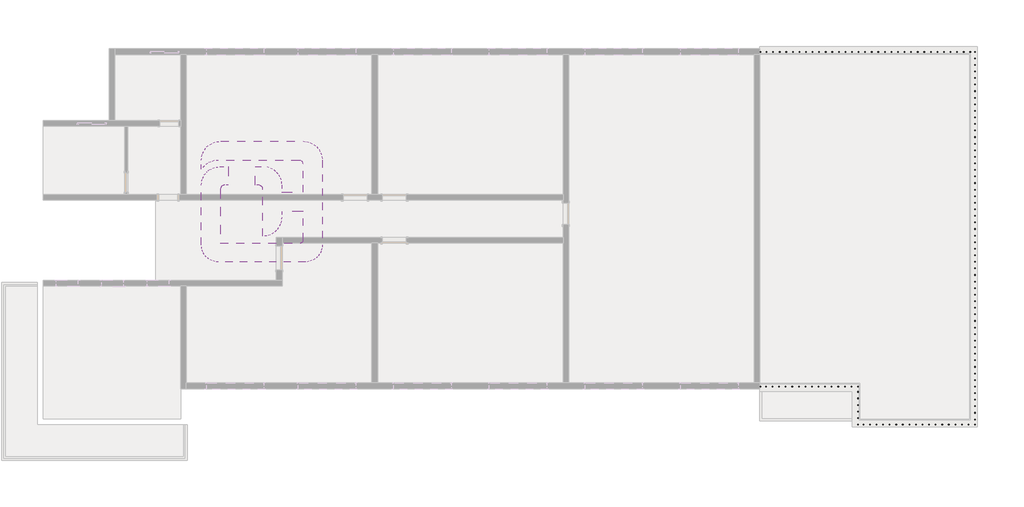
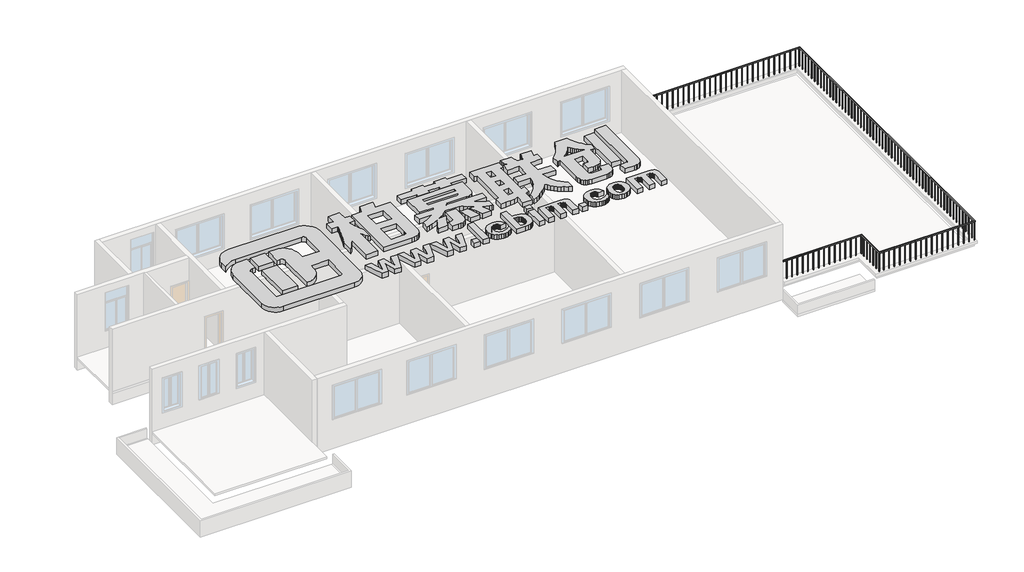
# One storey, part 2 of 2: 1 proxy, 1 railing.
"""IFC4 building model written with IfcOpenShell, lengths in millimetres."""

from ifc_helpers import new_model, si_unit, frame, origin, place, context, project, spatial, polyline, outline, extrude, faceted_brep, transform, mapped, element, save
from components import generic_models_1ff84f2f

model = new_model("IFC4")

# Units and contexts
model_context = context("Model", 3, world=origin())
ifc_project = project(units=[si_unit("LENGTHUNIT", "METRE", prefix="MILLI")], contexts=[model_context])

# Site, building, storey
site = spatial("IfcSite", under=ifc_project)
building = spatial("IfcBuilding", under=site)
storey = spatial("IfcBuildingStorey", under=building, Name="标高 2", Elevation=3300.0)

# Proxy
placement = place(None, origin())
generic_models_shape = generic_models_1ff84f2f(model_context)
element("IfcBuildingElementProxy", 1, Name="柏慕联创LOGO横向 : 柏慕联创LOGO横向", ObjectType="柏慕联创LOGO横向 : 柏慕联创LOGO横向", at=placement, inside=storey, context=model_context, shape_type="MappedRepresentation", body=[
    mapped(generic_models_shape, transform((5525.1052473, -2648.768361, 7400.0), x_axis=(1.0, 0.0, 0.0), y_axis=(0.0, 1.0, 0.0), z_axis=(0.0, 0.0, 1.0))),
])

# Railing
element("IfcRailing", 2, ObjectType="1050", at=placement, inside=storey, context=model_context, shape_type="SolidModel", body=[
    faceted_brep([(26565.1052473, 5396.231639, 5350.0), (26565.1052473, 5396.231639, 5300.0), (26565.1052473, 5346.231639, 5300.0), (26565.1052473, 5346.231639, 5350.0), (35590.1052473, 5396.231639, 5350.0), (35590.1052473, 5396.231639, 5300.0), (35540.1052473, 5346.231639, 5300.0), (35540.1052473, 5346.231639, 5350.0), (35590.1052473, -10273.768361, 5350.0), (35590.1052473, -10273.768361, 5300.0), (35540.1052473, -10223.768361, 5300.0), (35540.1052473, -10223.768361, 5350.0), (30640.1052473, -10273.768361, 5350.0), (30640.1052473, -10273.768361, 5300.0), (30690.1052473, -10223.768361, 5300.0), (30690.1052473, -10223.768361, 5350.0), (30640.1052473, -8673.768361, 5350.0), (30640.1052473, -8673.768361, 5300.0), (30690.1052473, -8623.768361, 5300.0), (30690.1052473, -8623.768361, 5350.0), (26565.1052473, -8673.768361, 5350.0), (26565.1052473, -8623.768361, 5350.0), (26565.1052473, -8623.768361, 5300.0), (26565.1052473, -8673.768361, 5300.0)], [[[0, 1, 2, 3]], [[1, 0, 4, 5]], [[2, 1, 5, 6]], [[3, 2, 6, 7]], [[0, 3, 7, 4]], [[5, 4, 8, 9]], [[6, 5, 9, 10]], [[7, 6, 10, 11]], [[4, 7, 11, 8]], [[9, 8, 12, 13]], [[10, 9, 13, 14]], [[11, 10, 14, 15]], [[8, 11, 15, 12]], [[13, 12, 16, 17]], [[14, 13, 17, 18]], [[15, 14, 18, 19]], [[12, 15, 19, 16]], [[20, 21, 22, 23]], [[17, 16, 20, 23]], [[18, 17, 23, 22]], [[19, 18, 22, 21]], [[16, 19, 21, 20]]]),
    extrude(outline(polyline([(26827.6052473, -8636.268361), (26827.6052473, -8661.268361), (26802.6052473, -8661.268361), (26802.6052473, -8636.268361), (26827.6052473, -8636.268361)])), frame((0.0, 0.0, 4300.0), z_axis=(0.0, 0.0, 1.0), x_axis=(1.0, 0.0, 0.0)), (0.0, 0.0, 1.0), 1000.0),
    extrude(outline(polyline([(27102.6052473, -8636.268361), (27102.6052473, -8661.268361), (27077.6052473, -8661.268361), (27077.6052473, -8636.268361), (27102.6052473, -8636.268361)])), frame((0.0, 0.0, 4300.0), z_axis=(0.0, 0.0, 1.0), x_axis=(1.0, 0.0, 0.0)), (0.0, 0.0, 1.0), 1000.0),
    extrude(outline(polyline([(27377.6052473, -8636.268361), (27377.6052473, -8661.268361), (27352.6052473, -8661.268361), (27352.6052473, -8636.268361), (27377.6052473, -8636.268361)])), frame((0.0, 0.0, 4300.0), z_axis=(0.0, 0.0, 1.0), x_axis=(1.0, 0.0, 0.0)), (0.0, 0.0, 1.0), 1000.0),
    extrude(outline(polyline([(27652.6052473, -8636.268361), (27652.6052473, -8661.268361), (27627.6052473, -8661.268361), (27627.6052473, -8636.268361), (27652.6052473, -8636.268361)])), frame((0.0, 0.0, 4300.0), z_axis=(0.0, 0.0, 1.0), x_axis=(1.0, 0.0, 0.0)), (0.0, 0.0, 1.0), 1000.0),
    extrude(outline(polyline([(27927.6052473, -8636.268361), (27927.6052473, -8661.268361), (27902.6052473, -8661.268361), (27902.6052473, -8636.268361), (27927.6052473, -8636.268361)])), frame((0.0, 0.0, 4300.0), z_axis=(0.0, 0.0, 1.0), x_axis=(1.0, 0.0, 0.0)), (0.0, 0.0, 1.0), 1000.0),
    extrude(outline(polyline([(28202.6052473, -8636.268361), (28202.6052473, -8661.268361), (28177.6052473, -8661.268361), (28177.6052473, -8636.268361), (28202.6052473, -8636.268361)])), frame((0.0, 0.0, 4300.0), z_axis=(0.0, 0.0, 1.0), x_axis=(1.0, 0.0, 0.0)), (0.0, 0.0, 1.0), 1000.0),
    extrude(outline(polyline([(28477.6052473, -8636.268361), (28477.6052473, -8661.268361), (28452.6052473, -8661.268361), (28452.6052473, -8636.268361), (28477.6052473, -8636.268361)])), frame((0.0, 0.0, 4300.0), z_axis=(0.0, 0.0, 1.0), x_axis=(1.0, 0.0, 0.0)), (0.0, 0.0, 1.0), 1000.0),
    extrude(outline(polyline([(28752.6052473, -8636.268361), (28752.6052473, -8661.268361), (28727.6052473, -8661.268361), (28727.6052473, -8636.268361), (28752.6052473, -8636.268361)])), frame((0.0, 0.0, 4300.0), z_axis=(0.0, 0.0, 1.0), x_axis=(1.0, 0.0, 0.0)), (0.0, 0.0, 1.0), 1000.0),
    extrude(outline(polyline([(29027.6052473, -8636.268361), (29027.6052473, -8661.268361), (29002.6052473, -8661.268361), (29002.6052473, -8636.268361), (29027.6052473, -8636.268361)])), frame((0.0, 0.0, 4300.0), z_axis=(0.0, 0.0, 1.0), x_axis=(1.0, 0.0, 0.0)), (0.0, 0.0, 1.0), 1000.0),
    extrude(outline(polyline([(29302.6052473, -8636.268361), (29302.6052473, -8661.268361), (29277.6052473, -8661.268361), (29277.6052473, -8636.268361), (29302.6052473, -8636.268361)])), frame((0.0, 0.0, 4300.0), z_axis=(0.0, 0.0, 1.0), x_axis=(1.0, 0.0, 0.0)), (0.0, 0.0, 1.0), 1000.0),
    extrude(outline(polyline([(29577.6052473, -8636.268361), (29577.6052473, -8661.268361), (29552.6052473, -8661.268361), (29552.6052473, -8636.268361), (29577.6052473, -8636.268361)])), frame((0.0, 0.0, 4300.0), z_axis=(0.0, 0.0, 1.0), x_axis=(1.0, 0.0, 0.0)), (0.0, 0.0, 1.0), 1000.0),
    extrude(outline(polyline([(29852.6052473, -8636.268361), (29852.6052473, -8661.268361), (29827.6052473, -8661.268361), (29827.6052473, -8636.268361), (29852.6052473, -8636.268361)])), frame((0.0, 0.0, 4300.0), z_axis=(0.0, 0.0, 1.0), x_axis=(1.0, 0.0, 0.0)), (0.0, 0.0, 1.0), 1000.0),
    extrude(outline(polyline([(30127.6052473, -8636.268361), (30127.6052473, -8661.268361), (30102.6052473, -8661.268361), (30102.6052473, -8636.268361), (30127.6052473, -8636.268361)])), frame((0.0, 0.0, 4300.0), z_axis=(0.0, 0.0, 1.0), x_axis=(1.0, 0.0, 0.0)), (0.0, 0.0, 1.0), 1000.0),
    extrude(outline(polyline([(30402.6052473, -8636.268361), (30402.6052473, -8661.268361), (30377.6052473, -8661.268361), (30377.6052473, -8636.268361), (30402.6052473, -8636.268361)])), frame((0.0, 0.0, 4300.0), z_axis=(0.0, 0.0, 1.0), x_axis=(1.0, 0.0, 0.0)), (0.0, 0.0, 1.0), 1000.0),
    extrude(outline(polyline([(30677.6052473, -8886.268361), (30652.6052473, -8886.268361), (30652.6052473, -8861.268361), (30677.6052473, -8861.268361), (30677.6052473, -8886.268361)])), frame((0.0, 0.0, 4300.0), z_axis=(0.0, 0.0, 1.0), x_axis=(1.0, 0.0, 0.0)), (0.0, 0.0, 1.0), 1000.0),
    extrude(outline(polyline([(30677.6052473, -9161.268361), (30652.6052473, -9161.268361), (30652.6052473, -9136.268361), (30677.6052473, -9136.268361), (30677.6052473, -9161.268361)])), frame((0.0, 0.0, 4300.0), z_axis=(0.0, 0.0, 1.0), x_axis=(1.0, 0.0, 0.0)), (0.0, 0.0, 1.0), 1000.0),
    extrude(outline(polyline([(30677.6052473, -9436.268361), (30652.6052473, -9436.268361), (30652.6052473, -9411.268361), (30677.6052473, -9411.268361), (30677.6052473, -9436.268361)])), frame((0.0, 0.0, 4300.0), z_axis=(0.0, 0.0, 1.0), x_axis=(1.0, 0.0, 0.0)), (0.0, 0.0, 1.0), 1000.0),
    extrude(outline(polyline([(30677.6052473, -9711.268361), (30652.6052473, -9711.268361), (30652.6052473, -9686.268361), (30677.6052473, -9686.268361), (30677.6052473, -9711.268361)])), frame((0.0, 0.0, 4300.0), z_axis=(0.0, 0.0, 1.0), x_axis=(1.0, 0.0, 0.0)), (0.0, 0.0, 1.0), 1000.0),
    extrude(outline(polyline([(30677.6052473, -9986.268361), (30652.6052473, -9986.268361), (30652.6052473, -9961.268361), (30677.6052473, -9961.268361), (30677.6052473, -9986.268361)])), frame((0.0, 0.0, 4300.0), z_axis=(0.0, 0.0, 1.0), x_axis=(1.0, 0.0, 0.0)), (0.0, 0.0, 1.0), 1000.0),
    extrude(outline(polyline([(30902.6052473, -10236.268361), (30902.6052473, -10261.268361), (30877.6052473, -10261.268361), (30877.6052473, -10236.268361), (30902.6052473, -10236.268361)])), frame((0.0, 0.0, 4300.0), z_axis=(0.0, 0.0, 1.0), x_axis=(1.0, 0.0, 0.0)), (0.0, 0.0, 1.0), 1000.0),
    extrude(outline(polyline([(31177.6052473, -10236.268361), (31177.6052473, -10261.268361), (31152.6052473, -10261.268361), (31152.6052473, -10236.268361), (31177.6052473, -10236.268361)])), frame((0.0, 0.0, 4300.0), z_axis=(0.0, 0.0, 1.0), x_axis=(1.0, 0.0, 0.0)), (0.0, 0.0, 1.0), 1000.0),
    extrude(outline(polyline([(31452.6052473, -10236.268361), (31452.6052473, -10261.268361), (31427.6052473, -10261.268361), (31427.6052473, -10236.268361), (31452.6052473, -10236.268361)])), frame((0.0, 0.0, 4300.0), z_axis=(0.0, 0.0, 1.0), x_axis=(1.0, 0.0, 0.0)), (0.0, 0.0, 1.0), 1000.0),
    extrude(outline(polyline([(31727.6052473, -10236.268361), (31727.6052473, -10261.268361), (31702.6052473, -10261.268361), (31702.6052473, -10236.268361), (31727.6052473, -10236.268361)])), frame((0.0, 0.0, 4300.0), z_axis=(0.0, 0.0, 1.0), x_axis=(1.0, 0.0, 0.0)), (0.0, 0.0, 1.0), 1000.0),
    extrude(outline(polyline([(32002.6052473, -10236.268361), (32002.6052473, -10261.268361), (31977.6052473, -10261.268361), (31977.6052473, -10236.268361), (32002.6052473, -10236.268361)])), frame((0.0, 0.0, 4300.0), z_axis=(0.0, 0.0, 1.0), x_axis=(1.0, 0.0, 0.0)), (0.0, 0.0, 1.0), 1000.0),
    extrude(outline(polyline([(32277.6052473, -10236.268361), (32277.6052473, -10261.268361), (32252.6052473, -10261.268361), (32252.6052473, -10236.268361), (32277.6052473, -10236.268361)])), frame((0.0, 0.0, 4300.0), z_axis=(0.0, 0.0, 1.0), x_axis=(1.0, 0.0, 0.0)), (0.0, 0.0, 1.0), 1000.0),
    extrude(outline(polyline([(32552.6052473, -10236.268361), (32552.6052473, -10261.268361), (32527.6052473, -10261.268361), (32527.6052473, -10236.268361), (32552.6052473, -10236.268361)])), frame((0.0, 0.0, 4300.0), z_axis=(0.0, 0.0, 1.0), x_axis=(1.0, 0.0, 0.0)), (0.0, 0.0, 1.0), 1000.0),
    extrude(outline(polyline([(32827.6052473, -10236.268361), (32827.6052473, -10261.268361), (32802.6052473, -10261.268361), (32802.6052473, -10236.268361), (32827.6052473, -10236.268361)])), frame((0.0, 0.0, 4300.0), z_axis=(0.0, 0.0, 1.0), x_axis=(1.0, 0.0, 0.0)), (0.0, 0.0, 1.0), 1000.0),
    extrude(outline(polyline([(33102.6052473, -10236.268361), (33102.6052473, -10261.268361), (33077.6052473, -10261.268361), (33077.6052473, -10236.268361), (33102.6052473, -10236.268361)])), frame((0.0, 0.0, 4300.0), z_axis=(0.0, 0.0, 1.0), x_axis=(1.0, 0.0, 0.0)), (0.0, 0.0, 1.0), 1000.0),
    extrude(outline(polyline([(33377.6052473, -10236.268361), (33377.6052473, -10261.268361), (33352.6052473, -10261.268361), (33352.6052473, -10236.268361), (33377.6052473, -10236.268361)])), frame((0.0, 0.0, 4300.0), z_axis=(0.0, 0.0, 1.0), x_axis=(1.0, 0.0, 0.0)), (0.0, 0.0, 1.0), 1000.0),
    extrude(outline(polyline([(33652.6052473, -10236.268361), (33652.6052473, -10261.268361), (33627.6052473, -10261.268361), (33627.6052473, -10236.268361), (33652.6052473, -10236.268361)])), frame((0.0, 0.0, 4300.0), z_axis=(0.0, 0.0, 1.0), x_axis=(1.0, 0.0, 0.0)), (0.0, 0.0, 1.0), 1000.0),
    extrude(outline(polyline([(33927.6052473, -10236.268361), (33927.6052473, -10261.268361), (33902.6052473, -10261.268361), (33902.6052473, -10236.268361), (33927.6052473, -10236.268361)])), frame((0.0, 0.0, 4300.0), z_axis=(0.0, 0.0, 1.0), x_axis=(1.0, 0.0, 0.0)), (0.0, 0.0, 1.0), 1000.0),
    extrude(outline(polyline([(34202.6052473, -10236.268361), (34202.6052473, -10261.268361), (34177.6052473, -10261.268361), (34177.6052473, -10236.268361), (34202.6052473, -10236.268361)])), frame((0.0, 0.0, 4300.0), z_axis=(0.0, 0.0, 1.0), x_axis=(1.0, 0.0, 0.0)), (0.0, 0.0, 1.0), 1000.0),
    extrude(outline(polyline([(34477.6052473, -10236.268361), (34477.6052473, -10261.268361), (34452.6052473, -10261.268361), (34452.6052473, -10236.268361), (34477.6052473, -10236.268361)])), frame((0.0, 0.0, 4300.0), z_axis=(0.0, 0.0, 1.0), x_axis=(1.0, 0.0, 0.0)), (0.0, 0.0, 1.0), 1000.0),
    extrude(outline(polyline([(34752.6052473, -10236.268361), (34752.6052473, -10261.268361), (34727.6052473, -10261.268361), (34727.6052473, -10236.268361), (34752.6052473, -10236.268361)])), frame((0.0, 0.0, 4300.0), z_axis=(0.0, 0.0, 1.0), x_axis=(1.0, 0.0, 0.0)), (0.0, 0.0, 1.0), 1000.0),
    extrude(outline(polyline([(35027.6052473, -10236.268361), (35027.6052473, -10261.268361), (35002.6052473, -10261.268361), (35002.6052473, -10236.268361), (35027.6052473, -10236.268361)])), frame((0.0, 0.0, 4300.0), z_axis=(0.0, 0.0, 1.0), x_axis=(1.0, 0.0, 0.0)), (0.0, 0.0, 1.0), 1000.0),
    extrude(outline(polyline([(35302.6052473, -10236.268361), (35302.6052473, -10261.268361), (35277.6052473, -10261.268361), (35277.6052473, -10236.268361), (35302.6052473, -10236.268361)])), frame((0.0, 0.0, 4300.0), z_axis=(0.0, 0.0, 1.0), x_axis=(1.0, 0.0, 0.0)), (0.0, 0.0, 1.0), 1000.0),
    extrude(outline(polyline([(35552.6052473, -10016.268361), (35577.6052473, -10016.268361), (35577.6052473, -10041.268361), (35552.6052473, -10041.268361), (35552.6052473, -10016.268361)])), frame((0.0, 0.0, 4300.0), z_axis=(0.0, 0.0, 1.0), x_axis=(1.0, 0.0, 0.0)), (0.0, 0.0, 1.0), 1000.0),
    extrude(outline(polyline([(35552.6052473, -9741.268361), (35577.6052473, -9741.268361), (35577.6052473, -9766.268361), (35552.6052473, -9766.268361), (35552.6052473, -9741.268361)])), frame((0.0, 0.0, 4300.0), z_axis=(0.0, 0.0, 1.0), x_axis=(1.0, 0.0, 0.0)), (0.0, 0.0, 1.0), 1000.0),
    extrude(outline(polyline([(35552.6052473, -9466.268361), (35577.6052473, -9466.268361), (35577.6052473, -9491.268361), (35552.6052473, -9491.268361), (35552.6052473, -9466.268361)])), frame((0.0, 0.0, 4300.0), z_axis=(0.0, 0.0, 1.0), x_axis=(1.0, 0.0, 0.0)), (0.0, 0.0, 1.0), 1000.0),
    extrude(outline(polyline([(35552.6052473, -9191.268361), (35577.6052473, -9191.268361), (35577.6052473, -9216.268361), (35552.6052473, -9216.268361), (35552.6052473, -9191.268361)])), frame((0.0, 0.0, 4300.0), z_axis=(0.0, 0.0, 1.0), x_axis=(1.0, 0.0, 0.0)), (0.0, 0.0, 1.0), 1000.0),
    extrude(outline(polyline([(35552.6052473, -8916.268361), (35577.6052473, -8916.268361), (35577.6052473, -8941.268361), (35552.6052473, -8941.268361), (35552.6052473, -8916.268361)])), frame((0.0, 0.0, 4300.0), z_axis=(0.0, 0.0, 1.0), x_axis=(1.0, 0.0, 0.0)), (0.0, 0.0, 1.0), 1000.0),
    extrude(outline(polyline([(35552.6052473, -8641.268361), (35577.6052473, -8641.268361), (35577.6052473, -8666.268361), (35552.6052473, -8666.268361), (35552.6052473, -8641.268361)])), frame((0.0, 0.0, 4300.0), z_axis=(0.0, 0.0, 1.0), x_axis=(1.0, 0.0, 0.0)), (0.0, 0.0, 1.0), 1000.0),
    extrude(outline(polyline([(35552.6052473, -8366.268361), (35577.6052473, -8366.268361), (35577.6052473, -8391.268361), (35552.6052473, -8391.268361), (35552.6052473, -8366.268361)])), frame((0.0, 0.0, 4300.0), z_axis=(0.0, 0.0, 1.0), x_axis=(1.0, 0.0, 0.0)), (0.0, 0.0, 1.0), 1000.0),
    extrude(outline(polyline([(35552.6052473, -8091.268361), (35577.6052473, -8091.268361), (35577.6052473, -8116.268361), (35552.6052473, -8116.268361), (35552.6052473, -8091.268361)])), frame((0.0, 0.0, 4300.0), z_axis=(0.0, 0.0, 1.0), x_axis=(1.0, 0.0, 0.0)), (0.0, 0.0, 1.0), 1000.0),
    extrude(outline(polyline([(35552.6052473, -7816.268361), (35577.6052473, -7816.268361), (35577.6052473, -7841.268361), (35552.6052473, -7841.268361), (35552.6052473, -7816.268361)])), frame((0.0, 0.0, 4300.0), z_axis=(0.0, 0.0, 1.0), x_axis=(1.0, 0.0, 0.0)), (0.0, 0.0, 1.0), 1000.0),
    extrude(outline(polyline([(35552.6052473, -7541.268361), (35577.6052473, -7541.268361), (35577.6052473, -7566.268361), (35552.6052473, -7566.268361), (35552.6052473, -7541.268361)])), frame((0.0, 0.0, 4300.0), z_axis=(0.0, 0.0, 1.0), x_axis=(1.0, 0.0, 0.0)), (0.0, 0.0, 1.0), 1000.0),
    extrude(outline(polyline([(35552.6052473, -7266.268361), (35577.6052473, -7266.268361), (35577.6052473, -7291.268361), (35552.6052473, -7291.268361), (35552.6052473, -7266.268361)])), frame((0.0, 0.0, 4300.0), z_axis=(0.0, 0.0, 1.0), x_axis=(1.0, 0.0, 0.0)), (0.0, 0.0, 1.0), 1000.0),
    extrude(outline(polyline([(35552.6052473, -6991.268361), (35577.6052473, -6991.268361), (35577.6052473, -7016.268361), (35552.6052473, -7016.268361), (35552.6052473, -6991.268361)])), frame((0.0, 0.0, 4300.0), z_axis=(0.0, 0.0, 1.0), x_axis=(1.0, 0.0, 0.0)), (0.0, 0.0, 1.0), 1000.0),
    extrude(outline(polyline([(35552.6052473, -6716.268361), (35577.6052473, -6716.268361), (35577.6052473, -6741.268361), (35552.6052473, -6741.268361), (35552.6052473, -6716.268361)])), frame((0.0, 0.0, 4300.0), z_axis=(0.0, 0.0, 1.0), x_axis=(1.0, 0.0, 0.0)), (0.0, 0.0, 1.0), 1000.0),
    extrude(outline(polyline([(35552.6052473, -6441.268361), (35577.6052473, -6441.268361), (35577.6052473, -6466.268361), (35552.6052473, -6466.268361), (35552.6052473, -6441.268361)])), frame((0.0, 0.0, 4300.0), z_axis=(0.0, 0.0, 1.0), x_axis=(1.0, 0.0, 0.0)), (0.0, 0.0, 1.0), 1000.0),
    extrude(outline(polyline([(35552.6052473, -6166.268361), (35577.6052473, -6166.268361), (35577.6052473, -6191.268361), (35552.6052473, -6191.268361), (35552.6052473, -6166.268361)])), frame((0.0, 0.0, 4300.0), z_axis=(0.0, 0.0, 1.0), x_axis=(1.0, 0.0, 0.0)), (0.0, 0.0, 1.0), 1000.0),
    extrude(outline(polyline([(35552.6052473, -5891.268361), (35577.6052473, -5891.268361), (35577.6052473, -5916.268361), (35552.6052473, -5916.268361), (35552.6052473, -5891.268361)])), frame((0.0, 0.0, 4300.0), z_axis=(0.0, 0.0, 1.0), x_axis=(1.0, 0.0, 0.0)), (0.0, 0.0, 1.0), 1000.0),
    extrude(outline(polyline([(35552.6052473, -5616.268361), (35577.6052473, -5616.268361), (35577.6052473, -5641.268361), (35552.6052473, -5641.268361), (35552.6052473, -5616.268361)])), frame((0.0, 0.0, 4300.0), z_axis=(0.0, 0.0, 1.0), x_axis=(1.0, 0.0, 0.0)), (0.0, 0.0, 1.0), 1000.0),
    extrude(outline(polyline([(35552.6052473, -5341.268361), (35577.6052473, -5341.268361), (35577.6052473, -5366.268361), (35552.6052473, -5366.268361), (35552.6052473, -5341.268361)])), frame((0.0, 0.0, 4300.0), z_axis=(0.0, 0.0, 1.0), x_axis=(1.0, 0.0, 0.0)), (0.0, 0.0, 1.0), 1000.0),
    extrude(outline(polyline([(35552.6052473, -5066.268361), (35577.6052473, -5066.268361), (35577.6052473, -5091.268361), (35552.6052473, -5091.268361), (35552.6052473, -5066.268361)])), frame((0.0, 0.0, 4300.0), z_axis=(0.0, 0.0, 1.0), x_axis=(1.0, 0.0, 0.0)), (0.0, 0.0, 1.0), 1000.0),
    extrude(outline(polyline([(35552.6052473, -4791.268361), (35577.6052473, -4791.268361), (35577.6052473, -4816.268361), (35552.6052473, -4816.268361), (35552.6052473, -4791.268361)])), frame((0.0, 0.0, 4300.0), z_axis=(0.0, 0.0, 1.0), x_axis=(1.0, 0.0, 0.0)), (0.0, 0.0, 1.0), 1000.0),
    extrude(outline(polyline([(35552.6052473, -4516.268361), (35577.6052473, -4516.268361), (35577.6052473, -4541.268361), (35552.6052473, -4541.268361), (35552.6052473, -4516.268361)])), frame((0.0, 0.0, 4300.0), z_axis=(0.0, 0.0, 1.0), x_axis=(1.0, 0.0, 0.0)), (0.0, 0.0, 1.0), 1000.0),
    extrude(outline(polyline([(35552.6052473, -4241.268361), (35577.6052473, -4241.268361), (35577.6052473, -4266.268361), (35552.6052473, -4266.268361), (35552.6052473, -4241.268361)])), frame((0.0, 0.0, 4300.0), z_axis=(0.0, 0.0, 1.0), x_axis=(1.0, 0.0, 0.0)), (0.0, 0.0, 1.0), 1000.0),
    extrude(outline(polyline([(35552.6052473, -3966.268361), (35577.6052473, -3966.268361), (35577.6052473, -3991.268361), (35552.6052473, -3991.268361), (35552.6052473, -3966.268361)])), frame((0.0, 0.0, 4300.0), z_axis=(0.0, 0.0, 1.0), x_axis=(1.0, 0.0, 0.0)), (0.0, 0.0, 1.0), 1000.0),
    extrude(outline(polyline([(35552.6052473, -3691.268361), (35577.6052473, -3691.268361), (35577.6052473, -3716.268361), (35552.6052473, -3716.268361), (35552.6052473, -3691.268361)])), frame((0.0, 0.0, 4300.0), z_axis=(0.0, 0.0, 1.0), x_axis=(1.0, 0.0, 0.0)), (0.0, 0.0, 1.0), 1000.0),
    extrude(outline(polyline([(35552.6052473, -3416.268361), (35577.6052473, -3416.268361), (35577.6052473, -3441.268361), (35552.6052473, -3441.268361), (35552.6052473, -3416.268361)])), frame((0.0, 0.0, 4300.0), z_axis=(0.0, 0.0, 1.0), x_axis=(1.0, 0.0, 0.0)), (0.0, 0.0, 1.0), 1000.0),
    extrude(outline(polyline([(35552.6052473, -3141.268361), (35577.6052473, -3141.268361), (35577.6052473, -3166.268361), (35552.6052473, -3166.268361), (35552.6052473, -3141.268361)])), frame((0.0, 0.0, 4300.0), z_axis=(0.0, 0.0, 1.0), x_axis=(1.0, 0.0, 0.0)), (0.0, 0.0, 1.0), 1000.0),
    extrude(outline(polyline([(35552.6052473, -2866.268361), (35577.6052473, -2866.268361), (35577.6052473, -2891.268361), (35552.6052473, -2891.268361), (35552.6052473, -2866.268361)])), frame((0.0, 0.0, 4300.0), z_axis=(0.0, 0.0, 1.0), x_axis=(1.0, 0.0, 0.0)), (0.0, 0.0, 1.0), 1000.0),
    extrude(outline(polyline([(35552.6052473, -2591.268361), (35577.6052473, -2591.268361), (35577.6052473, -2616.268361), (35552.6052473, -2616.268361), (35552.6052473, -2591.268361)])), frame((0.0, 0.0, 4300.0), z_axis=(0.0, 0.0, 1.0), x_axis=(1.0, 0.0, 0.0)), (0.0, 0.0, 1.0), 1000.0),
    extrude(outline(polyline([(35552.6052473, -2316.268361), (35577.6052473, -2316.268361), (35577.6052473, -2341.268361), (35552.6052473, -2341.268361), (35552.6052473, -2316.268361)])), frame((0.0, 0.0, 4300.0), z_axis=(0.0, 0.0, 1.0), x_axis=(1.0, 0.0, 0.0)), (0.0, 0.0, 1.0), 1000.0),
    extrude(outline(polyline([(35552.6052473, -2041.268361), (35577.6052473, -2041.268361), (35577.6052473, -2066.268361), (35552.6052473, -2066.268361), (35552.6052473, -2041.268361)])), frame((0.0, 0.0, 4300.0), z_axis=(0.0, 0.0, 1.0), x_axis=(1.0, 0.0, 0.0)), (0.0, 0.0, 1.0), 1000.0),
    extrude(outline(polyline([(35552.6052473, -1766.268361), (35577.6052473, -1766.268361), (35577.6052473, -1791.268361), (35552.6052473, -1791.268361), (35552.6052473, -1766.268361)])), frame((0.0, 0.0, 4300.0), z_axis=(0.0, 0.0, 1.0), x_axis=(1.0, 0.0, 0.0)), (0.0, 0.0, 1.0), 1000.0),
    extrude(outline(polyline([(35552.6052473, -1491.268361), (35577.6052473, -1491.268361), (35577.6052473, -1516.268361), (35552.6052473, -1516.268361), (35552.6052473, -1491.268361)])), frame((0.0, 0.0, 4300.0), z_axis=(0.0, 0.0, 1.0), x_axis=(1.0, 0.0, 0.0)), (0.0, 0.0, 1.0), 1000.0),
    extrude(outline(polyline([(35552.6052473, -1216.268361), (35577.6052473, -1216.268361), (35577.6052473, -1241.268361), (35552.6052473, -1241.268361), (35552.6052473, -1216.268361)])), frame((0.0, 0.0, 4300.0), z_axis=(0.0, 0.0, 1.0), x_axis=(1.0, 0.0, 0.0)), (0.0, 0.0, 1.0), 1000.0),
    extrude(outline(polyline([(35552.6052473, -941.268361), (35577.6052473, -941.268361), (35577.6052473, -966.268361), (35552.6052473, -966.268361), (35552.6052473, -941.268361)])), frame((0.0, 0.0, 4300.0), z_axis=(0.0, 0.0, 1.0), x_axis=(1.0, 0.0, 0.0)), (0.0, 0.0, 1.0), 1000.0),
    extrude(outline(polyline([(35552.6052473, -666.268361), (35577.6052473, -666.268361), (35577.6052473, -691.268361), (35552.6052473, -691.268361), (35552.6052473, -666.268361)])), frame((0.0, 0.0, 4300.0), z_axis=(0.0, 0.0, 1.0), x_axis=(1.0, 0.0, 0.0)), (0.0, 0.0, 1.0), 1000.0),
    extrude(outline(polyline([(35552.6052473, -391.268361), (35577.6052473, -391.268361), (35577.6052473, -416.268361), (35552.6052473, -416.268361), (35552.6052473, -391.268361)])), frame((0.0, 0.0, 4300.0), z_axis=(0.0, 0.0, 1.0), x_axis=(1.0, 0.0, 0.0)), (0.0, 0.0, 1.0), 1000.0),
    extrude(outline(polyline([(35552.6052473, -116.268361), (35577.6052473, -116.268361), (35577.6052473, -141.268361), (35552.6052473, -141.268361), (35552.6052473, -116.268361)])), frame((0.0, 0.0, 4300.0), z_axis=(0.0, 0.0, 1.0), x_axis=(1.0, 0.0, 0.0)), (0.0, 0.0, 1.0), 1000.0),
    extrude(outline(polyline([(35552.6052473, 158.731639), (35577.6052473, 158.731639), (35577.6052473, 133.731639), (35552.6052473, 133.731639), (35552.6052473, 158.731639)])), frame((0.0, 0.0, 4300.0), z_axis=(0.0, 0.0, 1.0), x_axis=(1.0, 0.0, 0.0)), (0.0, 0.0, 1.0), 1000.0),
    extrude(outline(polyline([(35552.6052473, 433.731639), (35577.6052473, 433.731639), (35577.6052473, 408.731639), (35552.6052473, 408.731639), (35552.6052473, 433.731639)])), frame((0.0, 0.0, 4300.0), z_axis=(0.0, 0.0, 1.0), x_axis=(1.0, 0.0, 0.0)), (0.0, 0.0, 1.0), 1000.0),
    extrude(outline(polyline([(35552.6052473, 708.731639), (35577.6052473, 708.731639), (35577.6052473, 683.731639), (35552.6052473, 683.731639), (35552.6052473, 708.731639)])), frame((0.0, 0.0, 4300.0), z_axis=(0.0, 0.0, 1.0), x_axis=(1.0, 0.0, 0.0)), (0.0, 0.0, 1.0), 1000.0),
    extrude(outline(polyline([(35552.6052473, 983.731639), (35577.6052473, 983.731639), (35577.6052473, 958.731639), (35552.6052473, 958.731639), (35552.6052473, 983.731639)])), frame((0.0, 0.0, 4300.0), z_axis=(0.0, 0.0, 1.0), x_axis=(1.0, 0.0, 0.0)), (0.0, 0.0, 1.0), 1000.0),
    extrude(outline(polyline([(35552.6052473, 1258.731639), (35577.6052473, 1258.731639), (35577.6052473, 1233.731639), (35552.6052473, 1233.731639), (35552.6052473, 1258.731639)])), frame((0.0, 0.0, 4300.0), z_axis=(0.0, 0.0, 1.0), x_axis=(1.0, 0.0, 0.0)), (0.0, 0.0, 1.0), 1000.0),
    extrude(outline(polyline([(35552.6052473, 1533.731639), (35577.6052473, 1533.731639), (35577.6052473, 1508.731639), (35552.6052473, 1508.731639), (35552.6052473, 1533.731639)])), frame((0.0, 0.0, 4300.0), z_axis=(0.0, 0.0, 1.0), x_axis=(1.0, 0.0, 0.0)), (0.0, 0.0, 1.0), 1000.0),
    extrude(outline(polyline([(35552.6052473, 1808.731639), (35577.6052473, 1808.731639), (35577.6052473, 1783.731639), (35552.6052473, 1783.731639), (35552.6052473, 1808.731639)])), frame((0.0, 0.0, 4300.0), z_axis=(0.0, 0.0, 1.0), x_axis=(1.0, 0.0, 0.0)), (0.0, 0.0, 1.0), 1000.0),
    extrude(outline(polyline([(35552.6052473, 2083.731639), (35577.6052473, 2083.731639), (35577.6052473, 2058.731639), (35552.6052473, 2058.731639), (35552.6052473, 2083.731639)])), frame((0.0, 0.0, 4300.0), z_axis=(0.0, 0.0, 1.0), x_axis=(1.0, 0.0, 0.0)), (0.0, 0.0, 1.0), 1000.0),
    extrude(outline(polyline([(35552.6052473, 2358.731639), (35577.6052473, 2358.731639), (35577.6052473, 2333.731639), (35552.6052473, 2333.731639), (35552.6052473, 2358.731639)])), frame((0.0, 0.0, 4300.0), z_axis=(0.0, 0.0, 1.0), x_axis=(1.0, 0.0, 0.0)), (0.0, 0.0, 1.0), 1000.0),
    extrude(outline(polyline([(35552.6052473, 2633.731639), (35577.6052473, 2633.731639), (35577.6052473, 2608.731639), (35552.6052473, 2608.731639), (35552.6052473, 2633.731639)])), frame((0.0, 0.0, 4300.0), z_axis=(0.0, 0.0, 1.0), x_axis=(1.0, 0.0, 0.0)), (0.0, 0.0, 1.0), 1000.0),
    extrude(outline(polyline([(35552.6052473, 2908.731639), (35577.6052473, 2908.731639), (35577.6052473, 2883.731639), (35552.6052473, 2883.731639), (35552.6052473, 2908.731639)])), frame((0.0, 0.0, 4300.0), z_axis=(0.0, 0.0, 1.0), x_axis=(1.0, 0.0, 0.0)), (0.0, 0.0, 1.0), 1000.0),
    extrude(outline(polyline([(35552.6052473, 3183.731639), (35577.6052473, 3183.731639), (35577.6052473, 3158.731639), (35552.6052473, 3158.731639), (35552.6052473, 3183.731639)])), frame((0.0, 0.0, 4300.0), z_axis=(0.0, 0.0, 1.0), x_axis=(1.0, 0.0, 0.0)), (0.0, 0.0, 1.0), 1000.0),
    extrude(outline(polyline([(35552.6052473, 3458.731639), (35577.6052473, 3458.731639), (35577.6052473, 3433.731639), (35552.6052473, 3433.731639), (35552.6052473, 3458.731639)])), frame((0.0, 0.0, 4300.0), z_axis=(0.0, 0.0, 1.0), x_axis=(1.0, 0.0, 0.0)), (0.0, 0.0, 1.0), 1000.0),
    extrude(outline(polyline([(35552.6052473, 3733.731639), (35577.6052473, 3733.731639), (35577.6052473, 3708.731639), (35552.6052473, 3708.731639), (35552.6052473, 3733.731639)])), frame((0.0, 0.0, 4300.0), z_axis=(0.0, 0.0, 1.0), x_axis=(1.0, 0.0, 0.0)), (0.0, 0.0, 1.0), 1000.0),
    extrude(outline(polyline([(35552.6052473, 4008.731639), (35577.6052473, 4008.731639), (35577.6052473, 3983.731639), (35552.6052473, 3983.731639), (35552.6052473, 4008.731639)])), frame((0.0, 0.0, 4300.0), z_axis=(0.0, 0.0, 1.0), x_axis=(1.0, 0.0, 0.0)), (0.0, 0.0, 1.0), 1000.0),
    extrude(outline(polyline([(35552.6052473, 4283.731639), (35577.6052473, 4283.731639), (35577.6052473, 4258.731639), (35552.6052473, 4258.731639), (35552.6052473, 4283.731639)])), frame((0.0, 0.0, 4300.0), z_axis=(0.0, 0.0, 1.0), x_axis=(1.0, 0.0, 0.0)), (0.0, 0.0, 1.0), 1000.0),
    extrude(outline(polyline([(35552.6052473, 4558.731639), (35577.6052473, 4558.731639), (35577.6052473, 4533.731639), (35552.6052473, 4533.731639), (35552.6052473, 4558.731639)])), frame((0.0, 0.0, 4300.0), z_axis=(0.0, 0.0, 1.0), x_axis=(1.0, 0.0, 0.0)), (0.0, 0.0, 1.0), 1000.0),
    extrude(outline(polyline([(35552.6052473, 4833.731639), (35577.6052473, 4833.731639), (35577.6052473, 4808.731639), (35552.6052473, 4808.731639), (35552.6052473, 4833.731639)])), frame((0.0, 0.0, 4300.0), z_axis=(0.0, 0.0, 1.0), x_axis=(1.0, 0.0, 0.0)), (0.0, 0.0, 1.0), 1000.0),
    extrude(outline(polyline([(35552.6052473, 5108.731639), (35577.6052473, 5108.731639), (35577.6052473, 5083.731639), (35552.6052473, 5083.731639), (35552.6052473, 5108.731639)])), frame((0.0, 0.0, 4300.0), z_axis=(0.0, 0.0, 1.0), x_axis=(1.0, 0.0, 0.0)), (0.0, 0.0, 1.0), 1000.0),
    extrude(outline(polyline([(35352.6052473, 5358.731639), (35352.6052473, 5383.731639), (35377.6052473, 5383.731639), (35377.6052473, 5358.731639), (35352.6052473, 5358.731639)])), frame((0.0, 0.0, 4300.0), z_axis=(0.0, 0.0, 1.0), x_axis=(1.0, 0.0, 0.0)), (0.0, 0.0, 1.0), 1000.0),
    extrude(outline(polyline([(35077.6052473, 5358.731639), (35077.6052473, 5383.731639), (35102.6052473, 5383.731639), (35102.6052473, 5358.731639), (35077.6052473, 5358.731639)])), frame((0.0, 0.0, 4300.0), z_axis=(0.0, 0.0, 1.0), x_axis=(1.0, 0.0, 0.0)), (0.0, 0.0, 1.0), 1000.0),
    extrude(outline(polyline([(34802.6052473, 5358.731639), (34802.6052473, 5383.731639), (34827.6052473, 5383.731639), (34827.6052473, 5358.731639), (34802.6052473, 5358.731639)])), frame((0.0, 0.0, 4300.0), z_axis=(0.0, 0.0, 1.0), x_axis=(1.0, 0.0, 0.0)), (0.0, 0.0, 1.0), 1000.0),
    extrude(outline(polyline([(34527.6052473, 5358.731639), (34527.6052473, 5383.731639), (34552.6052473, 5383.731639), (34552.6052473, 5358.731639), (34527.6052473, 5358.731639)])), frame((0.0, 0.0, 4300.0), z_axis=(0.0, 0.0, 1.0), x_axis=(1.0, 0.0, 0.0)), (0.0, 0.0, 1.0), 1000.0),
    extrude(outline(polyline([(34252.6052473, 5358.731639), (34252.6052473, 5383.731639), (34277.6052473, 5383.731639), (34277.6052473, 5358.731639), (34252.6052473, 5358.731639)])), frame((0.0, 0.0, 4300.0), z_axis=(0.0, 0.0, 1.0), x_axis=(1.0, 0.0, 0.0)), (0.0, 0.0, 1.0), 1000.0),
    extrude(outline(polyline([(33977.6052473, 5358.731639), (33977.6052473, 5383.731639), (34002.6052473, 5383.731639), (34002.6052473, 5358.731639), (33977.6052473, 5358.731639)])), frame((0.0, 0.0, 4300.0), z_axis=(0.0, 0.0, 1.0), x_axis=(1.0, 0.0, 0.0)), (0.0, 0.0, 1.0), 1000.0),
    extrude(outline(polyline([(33702.6052473, 5358.731639), (33702.6052473, 5383.731639), (33727.6052473, 5383.731639), (33727.6052473, 5358.731639), (33702.6052473, 5358.731639)])), frame((0.0, 0.0, 4300.0), z_axis=(0.0, 0.0, 1.0), x_axis=(1.0, 0.0, 0.0)), (0.0, 0.0, 1.0), 1000.0),
    extrude(outline(polyline([(33427.6052473, 5358.731639), (33427.6052473, 5383.731639), (33452.6052473, 5383.731639), (33452.6052473, 5358.731639), (33427.6052473, 5358.731639)])), frame((0.0, 0.0, 4300.0), z_axis=(0.0, 0.0, 1.0), x_axis=(1.0, 0.0, 0.0)), (0.0, 0.0, 1.0), 1000.0),
    extrude(outline(polyline([(33152.6052473, 5358.731639), (33152.6052473, 5383.731639), (33177.6052473, 5383.731639), (33177.6052473, 5358.731639), (33152.6052473, 5358.731639)])), frame((0.0, 0.0, 4300.0), z_axis=(0.0, 0.0, 1.0), x_axis=(1.0, 0.0, 0.0)), (0.0, 0.0, 1.0), 1000.0),
    extrude(outline(polyline([(32877.6052473, 5358.731639), (32877.6052473, 5383.731639), (32902.6052473, 5383.731639), (32902.6052473, 5358.731639), (32877.6052473, 5358.731639)])), frame((0.0, 0.0, 4300.0), z_axis=(0.0, 0.0, 1.0), x_axis=(1.0, 0.0, 0.0)), (0.0, 0.0, 1.0), 1000.0),
    extrude(outline(polyline([(32602.6052473, 5358.731639), (32602.6052473, 5383.731639), (32627.6052473, 5383.731639), (32627.6052473, 5358.731639), (32602.6052473, 5358.731639)])), frame((0.0, 0.0, 4300.0), z_axis=(0.0, 0.0, 1.0), x_axis=(1.0, 0.0, 0.0)), (0.0, 0.0, 1.0), 1000.0),
    extrude(outline(polyline([(32327.6052473, 5358.731639), (32327.6052473, 5383.731639), (32352.6052473, 5383.731639), (32352.6052473, 5358.731639), (32327.6052473, 5358.731639)])), frame((0.0, 0.0, 4300.0), z_axis=(0.0, 0.0, 1.0), x_axis=(1.0, 0.0, 0.0)), (0.0, 0.0, 1.0), 1000.0),
    extrude(outline(polyline([(32052.6052473, 5358.731639), (32052.6052473, 5383.731639), (32077.6052473, 5383.731639), (32077.6052473, 5358.731639), (32052.6052473, 5358.731639)])), frame((0.0, 0.0, 4300.0), z_axis=(0.0, 0.0, 1.0), x_axis=(1.0, 0.0, 0.0)), (0.0, 0.0, 1.0), 1000.0),
    extrude(outline(polyline([(31777.6052473, 5358.731639), (31777.6052473, 5383.731639), (31802.6052473, 5383.731639), (31802.6052473, 5358.731639), (31777.6052473, 5358.731639)])), frame((0.0, 0.0, 4300.0), z_axis=(0.0, 0.0, 1.0), x_axis=(1.0, 0.0, 0.0)), (0.0, 0.0, 1.0), 1000.0),
    extrude(outline(polyline([(31502.6052473, 5358.731639), (31502.6052473, 5383.731639), (31527.6052473, 5383.731639), (31527.6052473, 5358.731639), (31502.6052473, 5358.731639)])), frame((0.0, 0.0, 4300.0), z_axis=(0.0, 0.0, 1.0), x_axis=(1.0, 0.0, 0.0)), (0.0, 0.0, 1.0), 1000.0),
    extrude(outline(polyline([(31227.6052473, 5358.731639), (31227.6052473, 5383.731639), (31252.6052473, 5383.731639), (31252.6052473, 5358.731639), (31227.6052473, 5358.731639)])), frame((0.0, 0.0, 4300.0), z_axis=(0.0, 0.0, 1.0), x_axis=(1.0, 0.0, 0.0)), (0.0, 0.0, 1.0), 1000.0),
    extrude(outline(polyline([(30952.6052473, 5358.731639), (30952.6052473, 5383.731639), (30977.6052473, 5383.731639), (30977.6052473, 5358.731639), (30952.6052473, 5358.731639)])), frame((0.0, 0.0, 4300.0), z_axis=(0.0, 0.0, 1.0), x_axis=(1.0, 0.0, 0.0)), (0.0, 0.0, 1.0), 1000.0),
    extrude(outline(polyline([(30677.6052473, 5358.731639), (30677.6052473, 5383.731639), (30702.6052473, 5383.731639), (30702.6052473, 5358.731639), (30677.6052473, 5358.731639)])), frame((0.0, 0.0, 4300.0), z_axis=(0.0, 0.0, 1.0), x_axis=(1.0, 0.0, 0.0)), (0.0, 0.0, 1.0), 1000.0),
    extrude(outline(polyline([(30402.6052473, 5358.731639), (30402.6052473, 5383.731639), (30427.6052473, 5383.731639), (30427.6052473, 5358.731639), (30402.6052473, 5358.731639)])), frame((0.0, 0.0, 4300.0), z_axis=(0.0, 0.0, 1.0), x_axis=(1.0, 0.0, 0.0)), (0.0, 0.0, 1.0), 1000.0),
    extrude(outline(polyline([(30127.6052473, 5358.731639), (30127.6052473, 5383.731639), (30152.6052473, 5383.731639), (30152.6052473, 5358.731639), (30127.6052473, 5358.731639)])), frame((0.0, 0.0, 4300.0), z_axis=(0.0, 0.0, 1.0), x_axis=(1.0, 0.0, 0.0)), (0.0, 0.0, 1.0), 1000.0),
    extrude(outline(polyline([(29852.6052473, 5358.731639), (29852.6052473, 5383.731639), (29877.6052473, 5383.731639), (29877.6052473, 5358.731639), (29852.6052473, 5358.731639)])), frame((0.0, 0.0, 4300.0), z_axis=(0.0, 0.0, 1.0), x_axis=(1.0, 0.0, 0.0)), (0.0, 0.0, 1.0), 1000.0),
    extrude(outline(polyline([(29577.6052473, 5358.731639), (29577.6052473, 5383.731639), (29602.6052473, 5383.731639), (29602.6052473, 5358.731639), (29577.6052473, 5358.731639)])), frame((0.0, 0.0, 4300.0), z_axis=(0.0, 0.0, 1.0), x_axis=(1.0, 0.0, 0.0)), (0.0, 0.0, 1.0), 1000.0),
    extrude(outline(polyline([(29302.6052473, 5358.731639), (29302.6052473, 5383.731639), (29327.6052473, 5383.731639), (29327.6052473, 5358.731639), (29302.6052473, 5358.731639)])), frame((0.0, 0.0, 4300.0), z_axis=(0.0, 0.0, 1.0), x_axis=(1.0, 0.0, 0.0)), (0.0, 0.0, 1.0), 1000.0),
    extrude(outline(polyline([(29027.6052473, 5358.731639), (29027.6052473, 5383.731639), (29052.6052473, 5383.731639), (29052.6052473, 5358.731639), (29027.6052473, 5358.731639)])), frame((0.0, 0.0, 4300.0), z_axis=(0.0, 0.0, 1.0), x_axis=(1.0, 0.0, 0.0)), (0.0, 0.0, 1.0), 1000.0),
    extrude(outline(polyline([(28752.6052473, 5358.731639), (28752.6052473, 5383.731639), (28777.6052473, 5383.731639), (28777.6052473, 5358.731639), (28752.6052473, 5358.731639)])), frame((0.0, 0.0, 4300.0), z_axis=(0.0, 0.0, 1.0), x_axis=(1.0, 0.0, 0.0)), (0.0, 0.0, 1.0), 1000.0),
    extrude(outline(polyline([(28477.6052473, 5358.731639), (28477.6052473, 5383.731639), (28502.6052473, 5383.731639), (28502.6052473, 5358.731639), (28477.6052473, 5358.731639)])), frame((0.0, 0.0, 4300.0), z_axis=(0.0, 0.0, 1.0), x_axis=(1.0, 0.0, 0.0)), (0.0, 0.0, 1.0), 1000.0),
    extrude(outline(polyline([(28202.6052473, 5358.731639), (28202.6052473, 5383.731639), (28227.6052473, 5383.731639), (28227.6052473, 5358.731639), (28202.6052473, 5358.731639)])), frame((0.0, 0.0, 4300.0), z_axis=(0.0, 0.0, 1.0), x_axis=(1.0, 0.0, 0.0)), (0.0, 0.0, 1.0), 1000.0),
    extrude(outline(polyline([(27927.6052473, 5358.731639), (27927.6052473, 5383.731639), (27952.6052473, 5383.731639), (27952.6052473, 5358.731639), (27927.6052473, 5358.731639)])), frame((0.0, 0.0, 4300.0), z_axis=(0.0, 0.0, 1.0), x_axis=(1.0, 0.0, 0.0)), (0.0, 0.0, 1.0), 1000.0),
    extrude(outline(polyline([(27652.6052473, 5358.731639), (27652.6052473, 5383.731639), (27677.6052473, 5383.731639), (27677.6052473, 5358.731639), (27652.6052473, 5358.731639)])), frame((0.0, 0.0, 4300.0), z_axis=(0.0, 0.0, 1.0), x_axis=(1.0, 0.0, 0.0)), (0.0, 0.0, 1.0), 1000.0),
    extrude(outline(polyline([(27377.6052473, 5358.731639), (27377.6052473, 5383.731639), (27402.6052473, 5383.731639), (27402.6052473, 5358.731639), (27377.6052473, 5358.731639)])), frame((0.0, 0.0, 4300.0), z_axis=(0.0, 0.0, 1.0), x_axis=(1.0, 0.0, 0.0)), (0.0, 0.0, 1.0), 1000.0),
    extrude(outline(polyline([(27102.6052473, 5358.731639), (27102.6052473, 5383.731639), (27127.6052473, 5383.731639), (27127.6052473, 5358.731639), (27102.6052473, 5358.731639)])), frame((0.0, 0.0, 4300.0), z_axis=(0.0, 0.0, 1.0), x_axis=(1.0, 0.0, 0.0)), (0.0, 0.0, 1.0), 1000.0),
    extrude(outline(polyline([(26827.6052473, 5358.731639), (26827.6052473, 5383.731639), (26852.6052473, 5383.731639), (26852.6052473, 5358.731639), (26827.6052473, 5358.731639)])), frame((0.0, 0.0, 4300.0), z_axis=(0.0, 0.0, 1.0), x_axis=(1.0, 0.0, 0.0)), (0.0, 0.0, 1.0), 1000.0),
    extrude(outline(polyline([(30677.6052473, -8661.268361), (30652.6052473, -8661.268361), (30652.6052473, -8636.268361), (30677.6052473, -8636.268361), (30677.6052473, -8661.268361)])), frame((0.0, 0.0, 4300.0), z_axis=(0.0, 0.0, 1.0), x_axis=(1.0, 0.0, 0.0)), (0.0, 0.0, 1.0), 1000.0),
    extrude(outline(polyline([(30677.6052473, -10236.268361), (30677.6052473, -10261.268361), (30652.6052473, -10261.268361), (30652.6052473, -10236.268361), (30677.6052473, -10236.268361)])), frame((0.0, 0.0, 4300.0), z_axis=(0.0, 0.0, 1.0), x_axis=(1.0, 0.0, 0.0)), (0.0, 0.0, 1.0), 1000.0),
    extrude(outline(polyline([(35552.6052473, -10236.268361), (35577.6052473, -10236.268361), (35577.6052473, -10261.268361), (35552.6052473, -10261.268361), (35552.6052473, -10236.268361)])), frame((0.0, 0.0, 4300.0), z_axis=(0.0, 0.0, 1.0), x_axis=(1.0, 0.0, 0.0)), (0.0, 0.0, 1.0), 1000.0),
    extrude(outline(polyline([(35552.6052473, 5358.731639), (35552.6052473, 5383.731639), (35577.6052473, 5383.731639), (35577.6052473, 5358.731639), (35552.6052473, 5358.731639)])), frame((0.0, 0.0, 4300.0), z_axis=(0.0, 0.0, 1.0), x_axis=(1.0, 0.0, 0.0)), (0.0, 0.0, 1.0), 1000.0),
    extrude(outline(polyline([(26590.1052473, -8636.268361), (26590.1052473, -8661.268361), (26565.1052473, -8661.268361), (26565.1052473, -8636.268361), (26590.1052473, -8636.268361)])), frame((0.0, 0.0, 4300.0), z_axis=(0.0, 0.0, 1.0), x_axis=(1.0, 0.0, 0.0)), (0.0, 0.0, 1.0), 1000.0),
    extrude(outline(polyline([(26565.1052473, 5358.731639), (26565.1052473, 5383.731639), (26590.1052473, 5383.731639), (26590.1052473, 5358.731639), (26565.1052473, 5358.731639)])), frame((0.0, 0.0, 4300.0), z_axis=(0.0, 0.0, 1.0), x_axis=(1.0, 0.0, 0.0)), (0.0, 0.0, 1.0), 1000.0),
])

save(model, "model.ifc")
